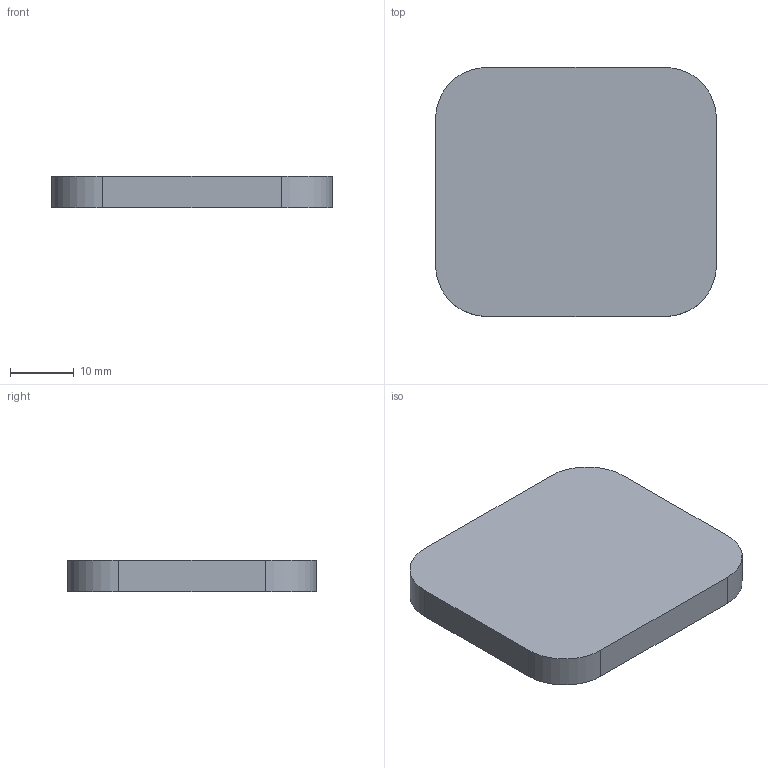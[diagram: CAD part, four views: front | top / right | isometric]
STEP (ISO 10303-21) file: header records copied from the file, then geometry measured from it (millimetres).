
FILE_DESCRIPTION(('Open CASCADE Model'),'2;1');
FILE_NAME('Open CASCADE Shape Model','2026-09-08T13:32:10',('Author'),( 'Open CASCADE'),'Open CASCADE STEP processor 7.7','Open CASCADE 7.7' ,'Unknown');
FILE_SCHEMA(('AUTOMOTIVE_DESIGN { 1 0 10303 214 1 1 1 1 }'));
Length unit declared in the file: millimetre
Products named in the file (1): Open CASCADE STEP translator 7.7 40
Bounding box: 44 x 39 x 5 mm (x, y, z)
Volume: 8305.3 mm3; surface area: 4083.5 mm2
Topology: 1 solids, 1 shells, 10 faces, 24 edges, 16 vertices
Faces by surface type: plane 6, cylinder 4
Entity records: 630 total; most frequent: CARTESIAN_POINT 123, DIRECTION 98, LINE 56, VECTOR 56, ORIENTED_EDGE 48, PCURVE 48, DEFINITIONAL_REPRESENTATION 48, EDGE_CURVE 24
